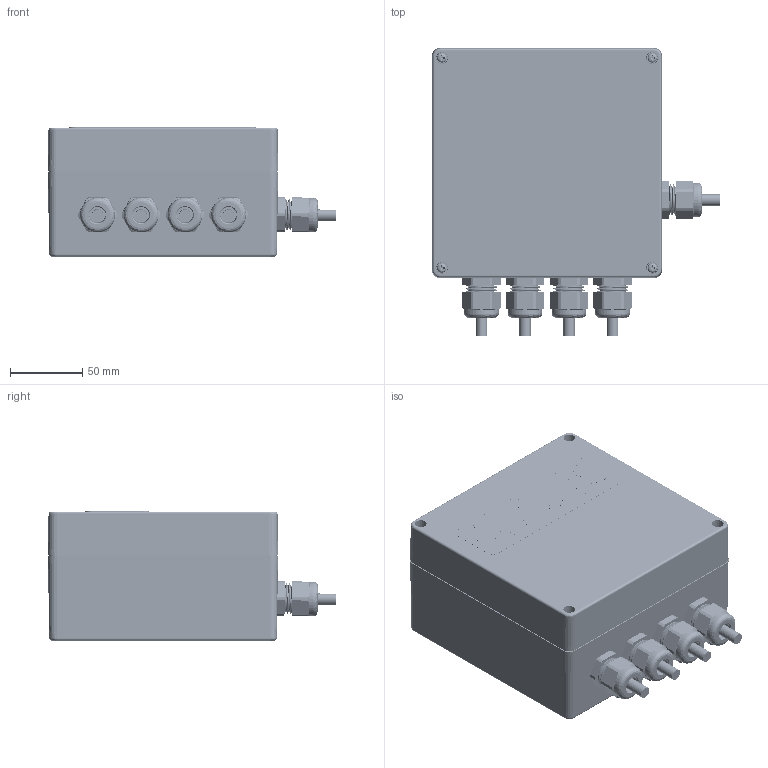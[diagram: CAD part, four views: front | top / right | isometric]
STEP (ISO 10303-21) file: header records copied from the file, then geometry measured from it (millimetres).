
FILE_DESCRIPTION (( 'STEP AP203' ), '1' );
FILE_NAME ('HI6010IT-PC2.STEP', '2021-06-08T00:17:46', ( '' ), ( '' ), 'SwSTEP 2.0', 'SolidWorks 2020', '' );
FILE_SCHEMA (( 'CONFIG_CONTROL_DESIGN' ));
Length unit declared in the file: inch
Products named in the file (18): 6007-0097-0; 0530-0798-01-0; 0508-0910_SCREW_M3X6_92000A116; HI6010IT-PC2; 2815-0174-0; 0508-0910-GASKET; 0508-0910-BOTTOM-COVER; 0535-0562-XX-0; 2101-0167-0; 0508-0910-SCREWS-SS-M4X20; 0529-0024-01-0; 0508-0911-01-0; 0508-0910-01-0; 0534-0562-01-0; 0508-0910-TOP-COVER; 2814-0095-0; 4617-0010-0; 0530-0800-01-0
Assembly tree (45 placements, depth 3):
  HI6010IT-PC2
    0535-0562-XX-0
      0534-0562-01-0
      2101-0167-0  x5
      4617-0010-0  x4
    0508-0910-01-0
      0508-0910-BOTTOM-COVER
      0508-0910-GASKET
      0508-0910-TOP-COVER
      0508-0910-SCREWS-SS-M4X20  x4
      0508-0910_SCREW_M3X6_92000A116  x4
    0508-0911-01-0
    2815-0174-0  x4
    6007-0097-0  x5
    2814-0095-0  x5
    0529-0024-01-0  x5
    0530-0798-01-0
    0530-0800-01-0
Bounding box: 199.96 x 199.86 x 89.53 mm (x, y, z)
Volume: 495047.2 mm3; surface area: 403902.5 mm2
Topology: 273 solids, 277 shells, 7582 faces, 19647 edges, 12871 vertices
Faces by surface type: plane 4074, cylinder 1627, bspline 1408, cone 401, torus 64, sphere 8
Entity records: 171141 total; most frequent: CARTESIAN_POINT 54713, ORIENTED_EDGE 25736, DIRECTION 19084, EDGE_CURVE 12868, VERTEX_POINT 8499, VECTOR 7972, LINE 7972, AXIS2_PLACEMENT_3D 5556
